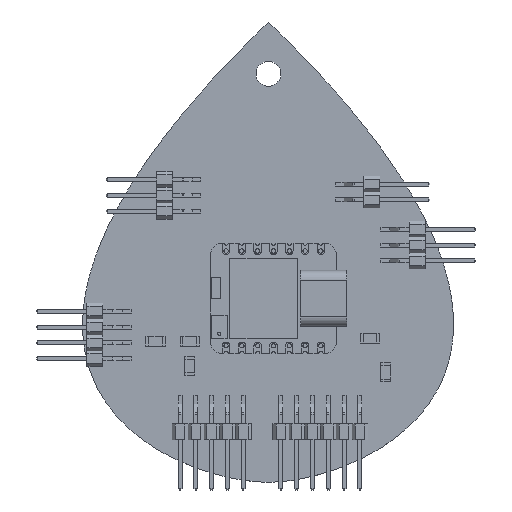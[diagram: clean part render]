
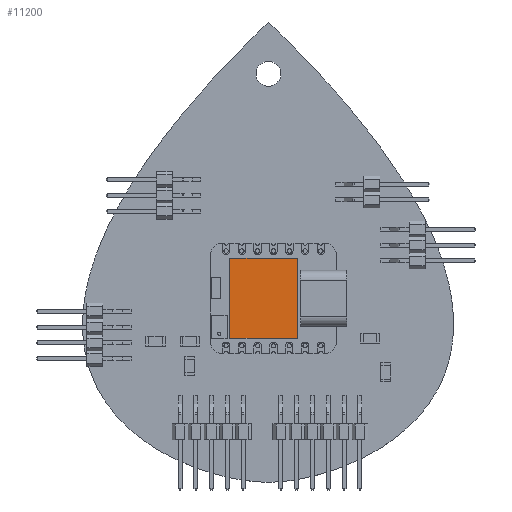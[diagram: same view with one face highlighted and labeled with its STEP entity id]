
A CAD part, top view. The second image highlights one B-rep face of the part: STEP entity #11200.
In plain terms, the highlighted planar face has unit normal (0, 0, 1).
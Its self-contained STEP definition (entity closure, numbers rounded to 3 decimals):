
#11071 = VERTEX_POINT('',#11072);
#11072 = CARTESIAN_POINT('',(-6.425,7.01,3.));
#11078 = EDGE_CURVE('',#11071,#11079,#11081,.T.);
#11079 = VERTEX_POINT('',#11080);
#11080 = CARTESIAN_POINT('',(-6.425,-3.84,3.));
#11081 = LINE('',#11082,#11083);
#11082 = CARTESIAN_POINT('',(-6.425,7.01,3.));
#11083 = VECTOR('',#11084,1.);
#11084 = DIRECTION('',(0.,-1.,0.));
#11109 = EDGE_CURVE('',#11079,#11110,#11112,.T.);
#11110 = VERTEX_POINT('',#11111);
#11111 = CARTESIAN_POINT('',(6.425,-3.84,3.));
#11112 = LINE('',#11113,#11114);
#11113 = CARTESIAN_POINT('',(-6.425,-3.84,3.));
#11114 = VECTOR('',#11115,1.);
#11115 = DIRECTION('',(1.,0.,0.));
#11140 = EDGE_CURVE('',#11110,#11141,#11143,.T.);
#11141 = VERTEX_POINT('',#11142);
#11142 = CARTESIAN_POINT('',(6.425,7.01,3.));
#11143 = LINE('',#11144,#11145);
#11144 = CARTESIAN_POINT('',(6.425,-3.84,3.));
#11145 = VECTOR('',#11146,1.);
#11146 = DIRECTION('',(0.,1.,0.));
#11171 = EDGE_CURVE('',#11141,#11071,#11172,.T.);
#11172 = LINE('',#11173,#11174);
#11173 = CARTESIAN_POINT('',(6.425,7.01,3.));
#11174 = VECTOR('',#11175,1.);
#11175 = DIRECTION('',(-1.,0.,0.));
#11200 = ADVANCED_FACE('',(#11201),#11207,.T.);
#11201 = FACE_BOUND('',#11202,.T.);
#11202 = EDGE_LOOP('',(#11203,#11204,#11205,#11206));
#11203 = ORIENTED_EDGE('',*,*,#11078,.T.);
#11204 = ORIENTED_EDGE('',*,*,#11109,.T.);
#11205 = ORIENTED_EDGE('',*,*,#11140,.T.);
#11206 = ORIENTED_EDGE('',*,*,#11171,.T.);
#11207 = PLANE('',#11208);
#11208 = AXIS2_PLACEMENT_3D('',#11209,#11210,#11211);
#11209 = CARTESIAN_POINT('',(0.,1.585,3.));
#11210 = DIRECTION('',(0.,0.,1.));
#11211 = DIRECTION('',(1.,0.,-0.));
